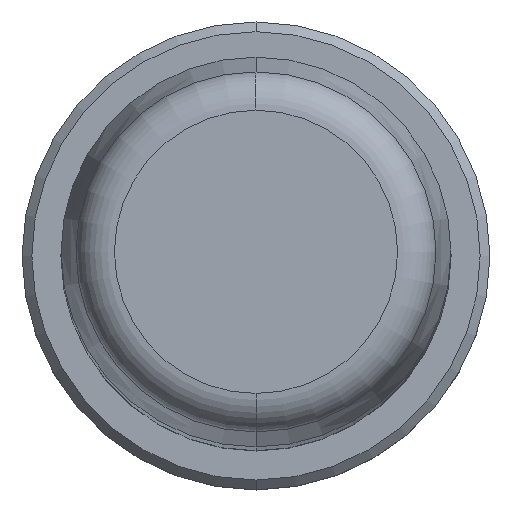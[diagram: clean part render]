
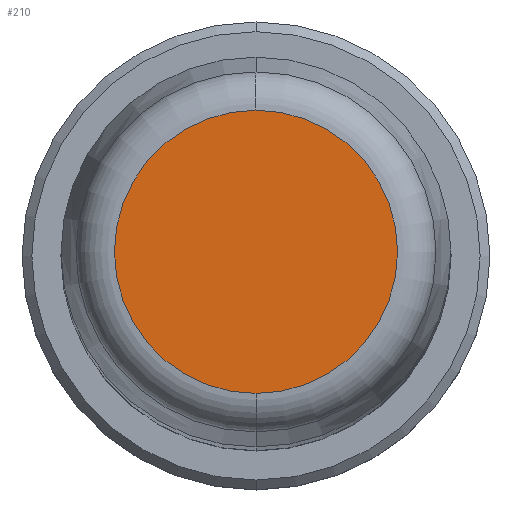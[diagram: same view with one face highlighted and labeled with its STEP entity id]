
A CAD part, top view. The second image highlights one B-rep face of the part: STEP entity #210.
In plain terms, the highlighted planar face has unit normal (0, 0, 1).
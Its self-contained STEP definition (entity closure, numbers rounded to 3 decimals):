
#1=CARTESIAN_POINT('',(0.,0.,125.));
#2=DIRECTION('',(0.,0.,-1.));
#3=DIRECTION('',(0.,-1.,0.));
#4=AXIS2_PLACEMENT_3D('',#1,#2,#3);
#6=CARTESIAN_POINT('',(0.,0.,125.));
#7=DIRECTION('',(0.,0.,-1.));
#8=DIRECTION('',(0.,1.,0.));
#9=AXIS2_PLACEMENT_3D('',#6,#7,#8);
#183=CARTESIAN_POINT('',(0.,-7.264,125.));
#184=CARTESIAN_POINT('',(0.,7.264,125.));
#185=VERTEX_POINT('',#183);
#186=VERTEX_POINT('',#184);
#199=CARTESIAN_POINT('',(0.,0.,125.));
#200=DIRECTION('',(0.,0.,1.));
#201=DIRECTION('',(0.,-1.,0.));
#202=AXIS2_PLACEMENT_3D('',#199,#200,#201);
#203=PLANE('',#202);
#205=ORIENTED_EDGE('',*,*,#204,.T.);
#207=ORIENTED_EDGE('',*,*,#206,.T.);
#208=EDGE_LOOP('',(#205,#207));
#209=FACE_OUTER_BOUND('',#208,.F.);
#210=ADVANCED_FACE('',(#209),#203,.T.);
#5=CIRCLE('',#4,7.264);
#10=CIRCLE('',#9,7.264);
#204=EDGE_CURVE('',#185,#186,#5,.T.);
#206=EDGE_CURVE('',#186,#185,#10,.T.);
